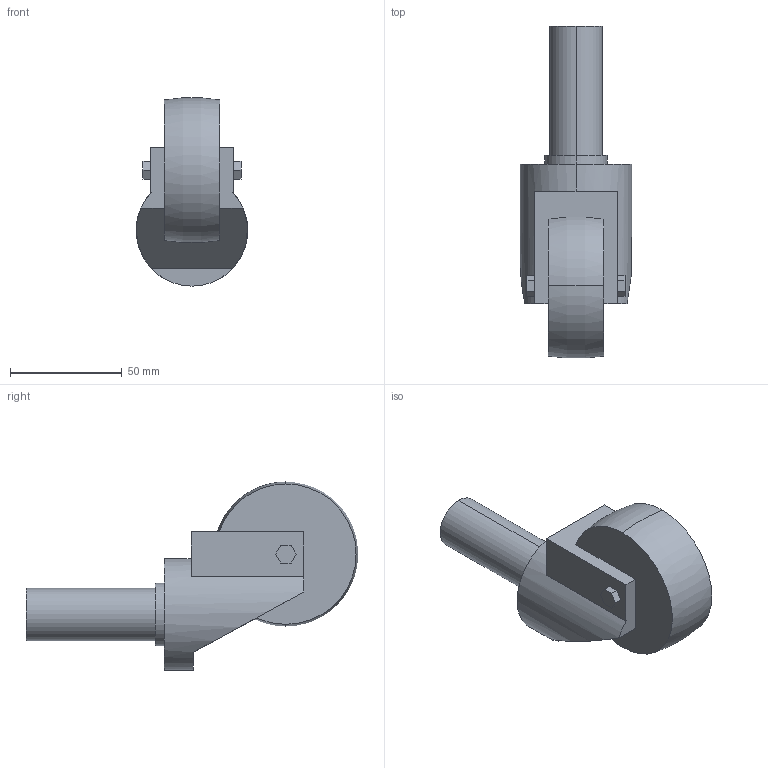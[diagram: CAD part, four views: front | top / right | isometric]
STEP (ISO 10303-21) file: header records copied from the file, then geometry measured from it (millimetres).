
FILE_DESCRIPTION (( 'STEP AP214' ), '1' );
FILE_NAME ('SUS-65N.step', '2024-02-15T04:32:19', ( 'catia' ), ( 'HP Inc.' ), 'SwSTEP 2.0', 'SolidWorks 2021', '' );
FILE_SCHEMA (( 'AUTOMOTIVE_DESIGN' ));
Length unit declared in the file: millimetre
Products named in the file (1): SUS-65N
Bounding box: 50 x 148.81 x 84.38 mm (x, y, z)
Volume: 186674 mm3; surface area: 24702.2 mm2
Topology: 1 solids, 1 shells, 38 faces, 96 edges, 64 vertices
Faces by surface type: plane 29, cylinder 6, torus 3
Entity records: 1194 total; most frequent: CARTESIAN_POINT 225, DIRECTION 194, ORIENTED_EDGE 192, EDGE_CURVE 96, LINE 68, VECTOR 68, VERTEX_POINT 64, AXIS2_PLACEMENT_3D 63
